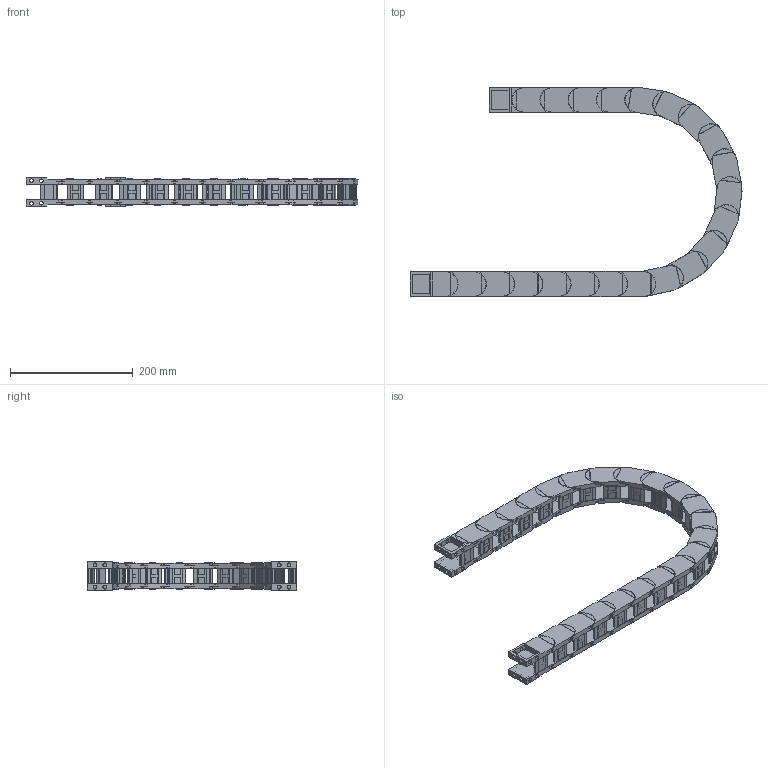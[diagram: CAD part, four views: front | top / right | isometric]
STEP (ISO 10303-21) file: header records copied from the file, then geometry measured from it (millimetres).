
FILE_DESCRIPTION((''),'2;1');
FILE_NAME('HD25-R150-ZPT_ASM','2022-09-04T16:35:23',('admin'),(''),'CREO PARAMETRIC BY PTC INC, 2021164','CREO PARAMETRIC BY PTC INC, 2021164','');
FILE_SCHEMA(('CONFIG_CONTROL_DESIGN','GEOMETRIC_VALIDATION_PROPERTIES_MIM'));
Length unit declared in the file: millimetre
Products named in the file (6): HD30; 25XL-QSYP-103; HD25_ASM; H25-T1; H25-T2; HD25-R150-ZPT_ASM
Assembly tree (27 placements, depth 3):
  HD25-R150-ZPT_ASM
    HD25_ASM  x21
      HD30
      25XL-QSYP-103
    H25-T1
    H25-T2
    25XL-QSYP-103  x2
Bounding box: 540.17 x 340.7 x 45.8 mm (x, y, z)
Volume: 873170.2 mm3; surface area: 487652 mm2
Topology: 92 solids, 134 shells, 2326 faces, 5887 edges, 3925 vertices
Faces by surface type: plane 1742, cylinder 500, torus 84
Entity records: 10793 total; most frequent: CARTESIAN_POINT 1532, DIRECTION 1478, ORIENTED_EDGE 1406, EDGE_CURVE 703, VECTOR 522, LINE 522, AXIS2_PLACEMENT_3D 478, VERTEX_POINT 469
